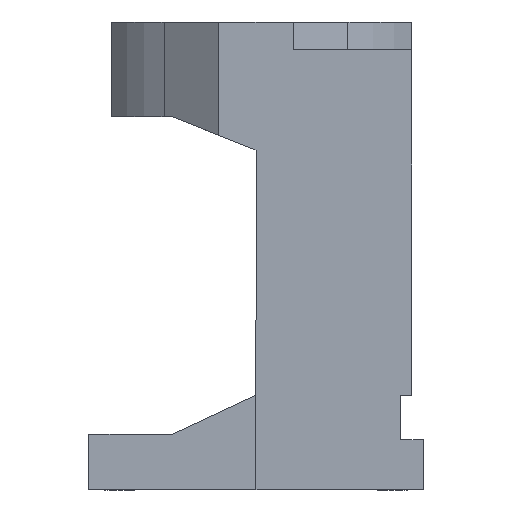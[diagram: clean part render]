
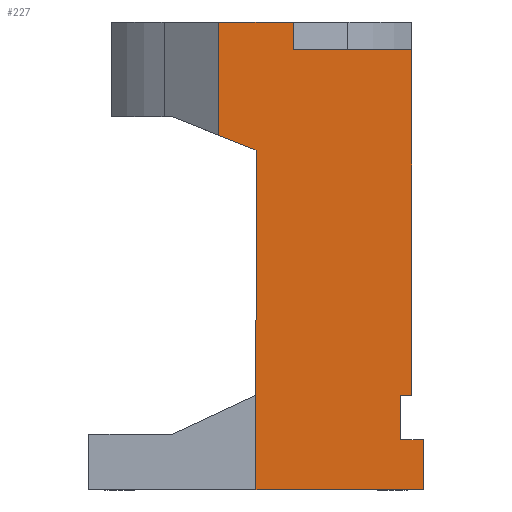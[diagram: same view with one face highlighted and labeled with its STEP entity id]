
A CAD part, left-side view. The second image highlights one B-rep face of the part: STEP entity #227.
In plain terms, the highlighted planar face has unit normal (-1, 0, 0).
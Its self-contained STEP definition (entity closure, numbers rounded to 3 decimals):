
#5 = CARTESIAN_POINT ( 'NONE',  ( -35., 6.694, 78.5 ) ) ;
#76 = VERTEX_POINT ( 'NONE', #424 ) ;
#109 = VECTOR ( 'NONE', #2143, 1000. ) ;
#138 = CARTESIAN_POINT ( 'NONE',  ( -35., -26., 73.5 ) ) ;
#149 = DIRECTION ( 'NONE',  ( 0., 0., -1. ) ) ;
#161 = ORIENTED_EDGE ( 'NONE', *, *, #3519, .F. ) ;
#191 = LINE ( 'NONE', #2226, #693 ) ;
#212 = CARTESIAN_POINT ( 'NONE',  ( -35., 6.694, 73.5 ) ) ;
#227 = ADVANCED_FACE ( 'NONE', ( #1249 ), #2774, .T. ) ;
#253 = DIRECTION ( 'NONE',  ( 0., 0., 1. ) ) ;
#258 = DIRECTION ( 'NONE',  ( 0., -1., 0. ) ) ;
#388 = EDGE_CURVE ( 'NONE', #583, #2869, #1436, .T. ) ;
#397 = ORIENTED_EDGE ( 'NONE', *, *, #715, .F. ) ;
#404 = VERTEX_POINT ( 'NONE', #3004 ) ;
#424 = CARTESIAN_POINT ( 'NONE',  ( -35., -26., 3.5 ) ) ;
#476 = CARTESIAN_POINT ( 'NONE',  ( -35., 0., 73.5 ) ) ;
#490 = ORIENTED_EDGE ( 'NONE', *, *, #3555, .T. ) ;
#504 = DIRECTION ( 'NONE',  ( 0., 0., -1. ) ) ;
#538 = EDGE_CURVE ( 'NONE', #3203, #2839, #2279, .T. ) ;
#556 = ORIENTED_EDGE ( 'NONE', *, *, #3459, .F. ) ;
#576 = DIRECTION ( 'NONE',  ( 0., 1., 0. ) ) ;
#583 = VERTEX_POINT ( 'NONE', #3682 ) ;
#693 = VECTOR ( 'NONE', #504, 1000. ) ;
#715 = EDGE_CURVE ( 'NONE', #2902, #76, #813, .T. ) ;
#764 = VERTEX_POINT ( 'NONE', #2069 ) ;
#804 = CARTESIAN_POINT ( 'NONE',  ( -35., -30., -5.5 ) ) ;
#813 = LINE ( 'NONE', #138, #1680 ) ;
#847 = CARTESIAN_POINT ( 'NONE',  ( -35., -26., 11.5 ) ) ;
#885 = LINE ( 'NONE', #3617, #2961 ) ;
#1010 = CARTESIAN_POINT ( 'NONE',  ( -35., -30., 3.5 ) ) ;
#1128 = LINE ( 'NONE', #476, #1420 ) ;
#1133 = VECTOR ( 'NONE', #253, 1000. ) ;
#1163 = VERTEX_POINT ( 'NONE', #2554 ) ;
#1194 = CARTESIAN_POINT ( 'NONE',  ( -35., -30., 73.5 ) ) ;
#1249 = FACE_OUTER_BOUND ( 'NONE', #2900, .T. ) ;
#1251 = EDGE_CURVE ( 'NONE', #1163, #3729, #885, .T. ) ;
#1299 = CARTESIAN_POINT ( 'NONE',  ( -35., -12.471, 78.5 ) ) ;
#1350 = ORIENTED_EDGE ( 'NONE', *, *, #538, .F. ) ;
#1364 = EDGE_CURVE ( 'NONE', #76, #2768, #3524, .T. ) ;
#1374 = DIRECTION ( 'NONE',  ( 0., 0., 1. ) ) ;
#1420 = VECTOR ( 'NONE', #1374, 1000. ) ;
#1436 = LINE ( 'NONE', #1299, #1934 ) ;
#1587 = AXIS2_PLACEMENT_3D ( 'NONE', #3248, #2337, #2117 ) ;
#1589 = DIRECTION ( 'NONE',  ( 0., -1., 0. ) ) ;
#1593 = ORIENTED_EDGE ( 'NONE', *, *, #3585, .F. ) ;
#1614 = DIRECTION ( 'NONE',  ( 0., 1., 0. ) ) ;
#1628 = CARTESIAN_POINT ( 'NONE',  ( -35., 9.496, 59.298 ) ) ;
#1656 = VECTOR ( 'NONE', #576, 1000. ) ;
#1680 = VECTOR ( 'NONE', #149, 1000. ) ;
#1698 = DIRECTION ( 'NONE',  ( 0., -0.928, -0.371 ) ) ;
#1710 = EDGE_CURVE ( 'NONE', #764, #2902, #2216, .T. ) ;
#1779 = CARTESIAN_POINT ( 'NONE',  ( -35., 6.694, 58.178 ) ) ;
#1785 = ORIENTED_EDGE ( 'NONE', *, *, #1710, .F. ) ;
#1916 = LINE ( 'NONE', #212, #1133 ) ;
#1934 = VECTOR ( 'NONE', #1614, 1000. ) ;
#1938 = LINE ( 'NONE', #1194, #3398 ) ;
#1941 = CARTESIAN_POINT ( 'NONE',  ( -35., -28., 73.5 ) ) ;
#1975 = VECTOR ( 'NONE', #258, 1000. ) ;
#2066 = CARTESIAN_POINT ( 'NONE',  ( -35., -28., 73.5 ) ) ;
#2069 = CARTESIAN_POINT ( 'NONE',  ( -35., -28., 11.5 ) ) ;
#2117 = DIRECTION ( 'NONE',  ( 0., 1., 0. ) ) ;
#2143 = DIRECTION ( 'NONE',  ( 0., 0., -1. ) ) ;
#2212 = EDGE_CURVE ( 'NONE', #2768, #3203, #1938, .T. ) ;
#2216 = LINE ( 'NONE', #2753, #2411 ) ;
#2226 = CARTESIAN_POINT ( 'NONE',  ( -35., -6.694, 90.58 ) ) ;
#2279 = LINE ( 'NONE', #3462, #1656 ) ;
#2302 = ORIENTED_EDGE ( 'NONE', *, *, #388, .T. ) ;
#2337 = DIRECTION ( 'NONE',  ( -1., 0., 0. ) ) ;
#2411 = VECTOR ( 'NONE', #3728, 1000. ) ;
#2451 = LINE ( 'NONE', #1628, #2625 ) ;
#2554 = CARTESIAN_POINT ( 'NONE',  ( -35., -6.694, 73.5 ) ) ;
#2625 = VECTOR ( 'NONE', #1698, 1000. ) ;
#2753 = CARTESIAN_POINT ( 'NONE',  ( -35., -30., 11.5 ) ) ;
#2768 = VERTEX_POINT ( 'NONE', #1010 ) ;
#2774 = PLANE ( 'NONE',  #1587 ) ;
#2784 = CARTESIAN_POINT ( 'NONE',  ( -35., -30., 3.5 ) ) ;
#2794 = ORIENTED_EDGE ( 'NONE', *, *, #1251, .F. ) ;
#2839 = VERTEX_POINT ( 'NONE', #2948 ) ;
#2869 = VERTEX_POINT ( 'NONE', #5 ) ;
#2900 = EDGE_LOOP ( 'NONE', ( #3497, #490, #1593, #1350, #3749, #3450, #397, #1785, #556, #2794, #161, #2302 ) ) ;
#2902 = VERTEX_POINT ( 'NONE', #847 ) ;
#2948 = CARTESIAN_POINT ( 'NONE',  ( -35., 0., -5.5 ) ) ;
#2961 = VECTOR ( 'NONE', #1589, 1000. ) ;
#3004 = CARTESIAN_POINT ( 'NONE',  ( -35., 0., 55.5 ) ) ;
#3119 = LINE ( 'NONE', #1941, #109 ) ;
#3203 = VERTEX_POINT ( 'NONE', #804 ) ;
#3248 = CARTESIAN_POINT ( 'NONE',  ( -35., -30., 73.5 ) ) ;
#3398 = VECTOR ( 'NONE', #3551, 1000. ) ;
#3450 = ORIENTED_EDGE ( 'NONE', *, *, #1364, .F. ) ;
#3459 = EDGE_CURVE ( 'NONE', #3729, #764, #3119, .T. ) ;
#3462 = CARTESIAN_POINT ( 'NONE',  ( -35., 0., -5.5 ) ) ;
#3497 = ORIENTED_EDGE ( 'NONE', *, *, #3703, .F. ) ;
#3519 = EDGE_CURVE ( 'NONE', #583, #1163, #191, .T. ) ;
#3524 = LINE ( 'NONE', #2784, #1975 ) ;
#3551 = DIRECTION ( 'NONE',  ( 0., 0., -1. ) ) ;
#3555 = EDGE_CURVE ( 'NONE', #3645, #404, #2451, .T. ) ;
#3585 = EDGE_CURVE ( 'NONE', #2839, #404, #1128, .T. ) ;
#3617 = CARTESIAN_POINT ( 'NONE',  ( -35., 0., 73.5 ) ) ;
#3645 = VERTEX_POINT ( 'NONE', #1779 ) ;
#3682 = CARTESIAN_POINT ( 'NONE',  ( -35., -6.694, 78.5 ) ) ;
#3703 = EDGE_CURVE ( 'NONE', #3645, #2869, #1916, .T. ) ;
#3728 = DIRECTION ( 'NONE',  ( 0., 1., 0. ) ) ;
#3729 = VERTEX_POINT ( 'NONE', #2066 ) ;
#3749 = ORIENTED_EDGE ( 'NONE', *, *, #2212, .F. ) ;
